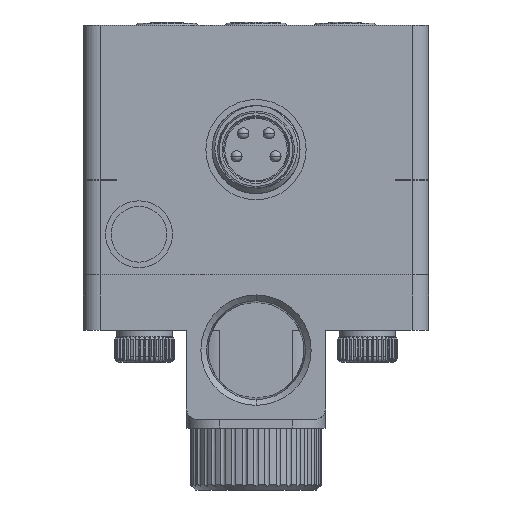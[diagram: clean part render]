
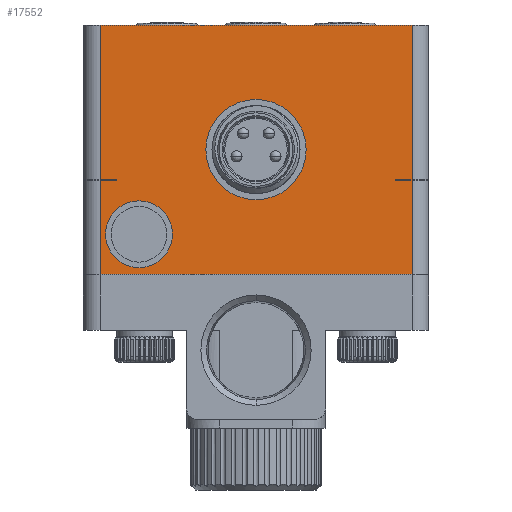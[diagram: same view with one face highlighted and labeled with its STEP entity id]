
A CAD part, front view. The second image highlights one B-rep face of the part: STEP entity #17552.
In plain terms, the highlighted planar face has unit normal (0, -1, 0).
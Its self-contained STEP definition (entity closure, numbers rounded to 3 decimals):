
#1315=DIRECTION('',(1.,0.,0.));
#1316=VECTOR('',#1315,28.);
#1317=CARTESIAN_POINT('',(-14.,0.,13.85));
#1318=LINE('',#1317,#1316);
#1379=DIRECTION('',(0.,0.,1.));
#1380=VECTOR('',#1379,13.85);
#1381=CARTESIAN_POINT('',(-14.,0.,0.));
#1382=LINE('',#1381,#1380);
#1397=DIRECTION('',(0.,0.,1.));
#1398=VECTOR('',#1397,0.05);
#1399=CARTESIAN_POINT('',(-12.5,0.,-0.05));
#1400=LINE('',#1399,#1398);
#1401=DIRECTION('',(0.,0.,1.));
#1402=VECTOR('',#1401,0.05);
#1403=CARTESIAN_POINT('',(12.5,0.,-0.05));
#1404=LINE('',#1403,#1402);
#1405=DIRECTION('',(1.,0.,0.));
#1406=VECTOR('',#1405,1.5);
#1407=CARTESIAN_POINT('',(12.5,0.,-0.05));
#1408=LINE('',#1407,#1406);
#1409=DIRECTION('',(0.,0.,1.));
#1410=VECTOR('',#1409,8.45);
#1411=CARTESIAN_POINT('',(-14.,0.,-8.5));
#1412=LINE('',#1411,#1410);
#1413=DIRECTION('',(1.,0.,0.));
#1414=VECTOR('',#1413,1.5);
#1415=CARTESIAN_POINT('',(-14.,0.,-0.05));
#1416=LINE('',#1415,#1414);
#1417=CARTESIAN_POINT('',(0.,0.,2.7));
#1418=DIRECTION('',(0.,-1.,0.));
#1419=DIRECTION('',(0.,0.,-1.));
#1420=AXIS2_PLACEMENT_3D('',#1417,#1418,#1419);
#1422=CARTESIAN_POINT('',(0.,0.,2.7));
#1423=DIRECTION('',(0.,-1.,0.));
#1424=DIRECTION('',(0.,0.,1.));
#1425=AXIS2_PLACEMENT_3D('',#1422,#1423,#1424);
#1427=CARTESIAN_POINT('',(-10.5,0.,-4.9));
#1428=DIRECTION('',(0.,-1.,0.));
#1429=DIRECTION('',(1.,0.,0.));
#1430=AXIS2_PLACEMENT_3D('',#1427,#1428,#1429);
#1432=CARTESIAN_POINT('',(-10.5,0.,-4.9));
#1433=DIRECTION('',(0.,-1.,0.));
#1434=DIRECTION('',(-1.,0.,0.));
#1435=AXIS2_PLACEMENT_3D('',#1432,#1433,#1434);
#1445=DIRECTION('',(-1.,0.,0.));
#1446=VECTOR('',#1445,1.5);
#1447=CARTESIAN_POINT('',(14.,0.,0.));
#1448=LINE('',#1447,#1446);
#1461=DIRECTION('',(-1.,0.,0.));
#1462=VECTOR('',#1461,1.5);
#1463=CARTESIAN_POINT('',(-12.5,0.,0.));
#1464=LINE('',#1463,#1462);
#1616=DIRECTION('',(1.,0.,0.));
#1617=VECTOR('',#1616,28.);
#1618=CARTESIAN_POINT('',(-14.,0.,-8.5));
#1619=LINE('',#1618,#1617);
#1721=DIRECTION('',(0.,0.,1.));
#1722=VECTOR('',#1721,8.45);
#1723=CARTESIAN_POINT('',(14.,0.,-8.5));
#1724=LINE('',#1723,#1722);
#8791=DIRECTION('',(0.,0.,-1.));
#8792=VECTOR('',#8791,13.85);
#8793=CARTESIAN_POINT('',(14.,0.,13.85));
#8794=LINE('',#8793,#8792);
#13340=CARTESIAN_POINT('',(-14.,0.,-8.5));
#13341=VERTEX_POINT('',#13340);
#13342=CARTESIAN_POINT('',(14.,0.,-8.5));
#13343=VERTEX_POINT('',#13342);
#13354=CARTESIAN_POINT('',(-7.5,0.,-4.9));
#13355=CARTESIAN_POINT('',(-13.5,0.,-4.9));
#13356=VERTEX_POINT('',#13354);
#13357=VERTEX_POINT('',#13355);
#13370=CARTESIAN_POINT('',(0.,0.,-1.3));
#13371=VERTEX_POINT('',#13370);
#13372=CARTESIAN_POINT('',(0.,0.,6.7));
#13373=VERTEX_POINT('',#13372);
#13380=CARTESIAN_POINT('',(-14.,0.,-0.05));
#13381=VERTEX_POINT('',#13380);
#13382=CARTESIAN_POINT('',(-12.5,0.,-0.05));
#13383=VERTEX_POINT('',#13382);
#13384=CARTESIAN_POINT('',(12.5,0.,-0.05));
#13385=CARTESIAN_POINT('',(14.,0.,-0.05));
#13386=VERTEX_POINT('',#13384);
#13387=VERTEX_POINT('',#13385);
#13410=CARTESIAN_POINT('',(-14.,0.,0.));
#13411=CARTESIAN_POINT('',(-14.,0.,13.85));
#13412=VERTEX_POINT('',#13410);
#13413=VERTEX_POINT('',#13411);
#13418=CARTESIAN_POINT('',(14.,0.,13.85));
#13419=CARTESIAN_POINT('',(14.,0.,0.));
#13420=VERTEX_POINT('',#13418);
#13421=VERTEX_POINT('',#13419);
#13463=CARTESIAN_POINT('',(12.5,0.,0.));
#13465=VERTEX_POINT('',#13463);
#13467=CARTESIAN_POINT('',(-12.5,0.,0.));
#13469=VERTEX_POINT('',#13467);
#17511=CARTESIAN_POINT('',(-14.,0.,-8.5));
#17512=DIRECTION('',(0.,-1.,0.));
#17513=DIRECTION('',(1.,0.,0.));
#17514=AXIS2_PLACEMENT_3D('',#17511,#17512,#17513);
#17515=PLANE('',#17514);
#17517=ORIENTED_EDGE('',*,*,#17516,.T.);
#17519=ORIENTED_EDGE('',*,*,#17518,.T.);
#17520=ORIENTED_EDGE('',*,*,#17502,.T.);
#17521=ORIENTED_EDGE('',*,*,#17417,.T.);
#17523=ORIENTED_EDGE('',*,*,#17522,.T.);
#17525=ORIENTED_EDGE('',*,*,#17524,.T.);
#17527=ORIENTED_EDGE('',*,*,#17526,.F.);
#17529=ORIENTED_EDGE('',*,*,#17528,.T.);
#17531=ORIENTED_EDGE('',*,*,#17530,.F.);
#17533=ORIENTED_EDGE('',*,*,#17532,.F.);
#17535=ORIENTED_EDGE('',*,*,#17534,.T.);
#17537=ORIENTED_EDGE('',*,*,#17536,.T.);
#17538=EDGE_LOOP('',(#17517,#17519,#17520,#17521,#17523,#17525,#17527,#17529,
#17531,#17533,#17535,#17537));
#17539=FACE_OUTER_BOUND('',#17538,.F.);
#17541=ORIENTED_EDGE('',*,*,#17540,.T.);
#17543=ORIENTED_EDGE('',*,*,#17542,.T.);
#17544=EDGE_LOOP('',(#17541,#17543));
#17545=FACE_BOUND('',#17544,.F.);
#17547=ORIENTED_EDGE('',*,*,#17546,.T.);
#17549=ORIENTED_EDGE('',*,*,#17548,.T.);
#17550=EDGE_LOOP('',(#17547,#17549));
#17551=FACE_BOUND('',#17550,.F.);
#17552=ADVANCED_FACE('',(#17539,#17545,#17551),#17515,.T.);
#1421=CIRCLE('',#1420,4.);
#1426=CIRCLE('',#1425,4.);
#1431=CIRCLE('',#1430,3.);
#1436=CIRCLE('',#1435,3.);
#17417=EDGE_CURVE('',#13413,#13420,#1318,.T.);
#17502=EDGE_CURVE('',#13412,#13413,#1382,.T.);
#17516=EDGE_CURVE('',#13383,#13469,#1400,.T.);
#17518=EDGE_CURVE('',#13469,#13412,#1464,.T.);
#17522=EDGE_CURVE('',#13420,#13421,#8794,.T.);
#17524=EDGE_CURVE('',#13421,#13465,#1448,.T.);
#17526=EDGE_CURVE('',#13386,#13465,#1404,.T.);
#17528=EDGE_CURVE('',#13386,#13387,#1408,.T.);
#17530=EDGE_CURVE('',#13343,#13387,#1724,.T.);
#17532=EDGE_CURVE('',#13341,#13343,#1619,.T.);
#17534=EDGE_CURVE('',#13341,#13381,#1412,.T.);
#17536=EDGE_CURVE('',#13381,#13383,#1416,.T.);
#17540=EDGE_CURVE('',#13371,#13373,#1421,.T.);
#17542=EDGE_CURVE('',#13373,#13371,#1426,.T.);
#17546=EDGE_CURVE('',#13356,#13357,#1431,.T.);
#17548=EDGE_CURVE('',#13357,#13356,#1436,.T.);
